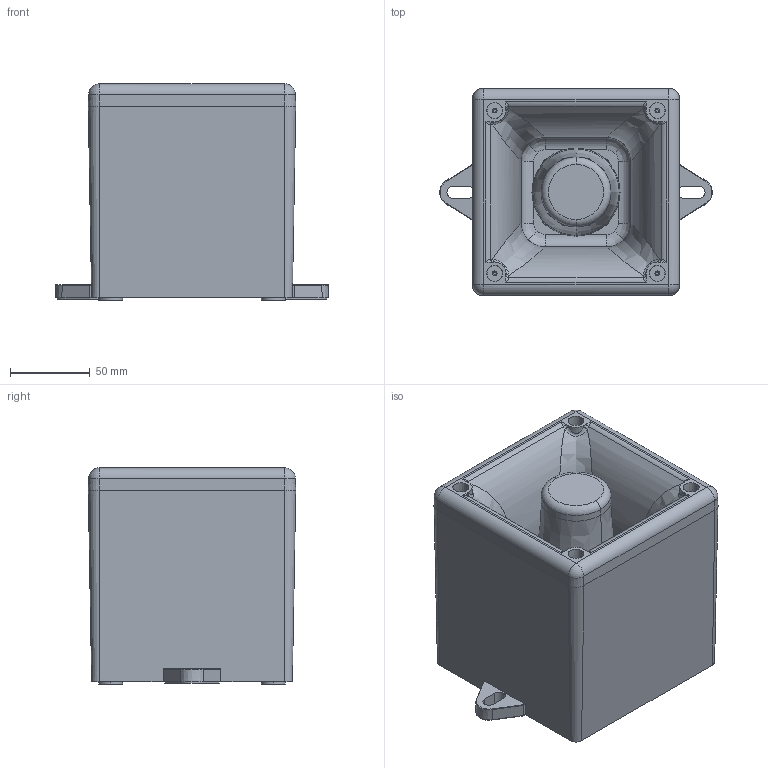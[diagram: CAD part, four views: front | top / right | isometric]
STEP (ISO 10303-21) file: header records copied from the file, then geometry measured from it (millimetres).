
FILE_DESCRIPTION (( 'STEP AP203' ), '1' );
FILE_NAME ('D244-05-001-3D_Issue_A edited.STEP', '2020-12-08T12:09:39', ( '' ), ( '' ), 'SwSTEP 2.0', 'SolidWorks 2020', '' );
FILE_SCHEMA (( 'CONFIG_CONTROL_DESIGN' ));
Length unit declared in the file: millimetre
Products named in the file (1): D244-05-001-3D_Issue_A edited
Bounding box: 171 x 130 x 135.6 mm (x, y, z)
Volume: 467768.2 mm3; surface area: 317126.9 mm2
Topology: 10 solids, 15 shells, 1409 faces, 3525 edges, 2209 vertices
Faces by surface type: plane 546, cone 313, cylinder 278, bspline 172, torus 66, sphere 34
Entity records: 65588 total; most frequent: CARTESIAN_POINT 33355, ORIENTED_EDGE 6974, DIRECTION 6301, EDGE_CURVE 3487, AXIS2_PLACEMENT_3D 2330, VERTEX_POINT 2209, LINE 1641, VECTOR 1641
